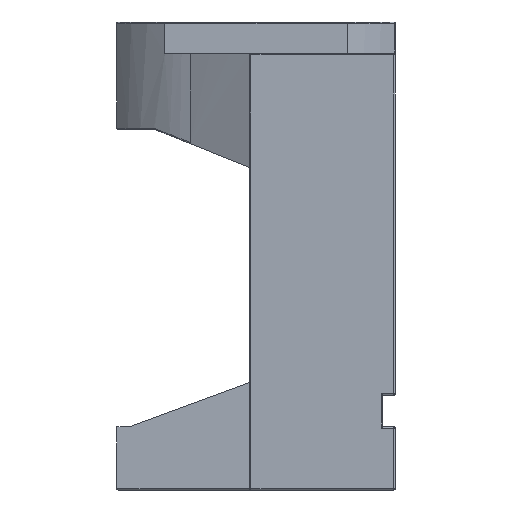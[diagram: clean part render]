
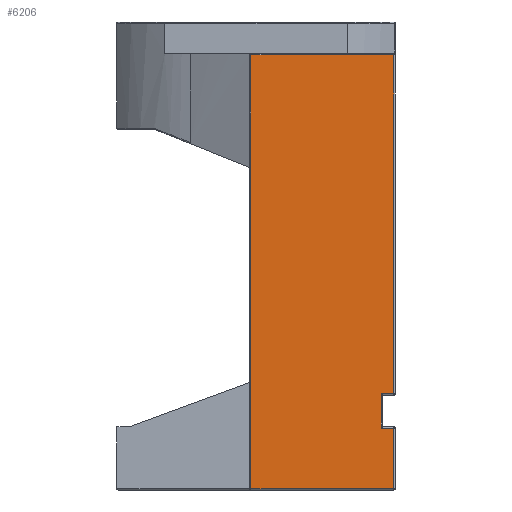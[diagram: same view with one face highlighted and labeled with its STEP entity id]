
A CAD part, left-side view. The second image highlights one B-rep face of the part: STEP entity #6206.
In plain terms, the highlighted planar face has unit normal (-1, 0, 0).
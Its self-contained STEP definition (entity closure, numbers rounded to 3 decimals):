
#141 = CARTESIAN_POINT ( 'NONE',  ( -32.5, -21.8, -4.8 ) ) ;
#221 = EDGE_CURVE ( 'NONE', #1336, #5757, #1367, .T. ) ;
#277 = PLANE ( 'NONE',  #516 ) ;
#446 = VECTOR ( 'NONE', #4212, 1000. ) ;
#516 = AXIS2_PLACEMENT_3D ( 'NONE', #2323, #5662, #5633 ) ;
#776 = EDGE_CURVE ( 'NONE', #5757, #3641, #5572, .T. ) ;
#879 = ORIENTED_EDGE ( 'NONE', *, *, #3501, .T. ) ;
#1160 = DIRECTION ( 'NONE',  ( 0., -1., 0. ) ) ;
#1255 = ORIENTED_EDGE ( 'NONE', *, *, #776, .T. ) ;
#1328 = ORIENTED_EDGE ( 'NONE', *, *, #5368, .T. ) ;
#1336 = VERTEX_POINT ( 'NONE', #5851 ) ;
#1361 = VERTEX_POINT ( 'NONE', #5758 ) ;
#1367 = LINE ( 'NONE', #3613, #2506 ) ;
#1398 = CARTESIAN_POINT ( 'NONE',  ( -32.5, -22., 63.8 ) ) ;
#1416 = DIRECTION ( 'NONE',  ( 0., 1., 0. ) ) ;
#1469 = CARTESIAN_POINT ( 'NONE',  ( -32.5, 0.8, 63.8 ) ) ;
#1584 = DIRECTION ( 'NONE',  ( 0., 1., 0. ) ) ;
#1601 = CARTESIAN_POINT ( 'NONE',  ( -32.5, -22., -4.8 ) ) ;
#1657 = DIRECTION ( 'NONE',  ( 0., -1., 0. ) ) ;
#1677 = VECTOR ( 'NONE', #5457, 1000. ) ;
#1961 = CARTESIAN_POINT ( 'NONE',  ( -32.5, -21.8, 10.2 ) ) ;
#2216 = ORIENTED_EDGE ( 'NONE', *, *, #5739, .T. ) ;
#2309 = ORIENTED_EDGE ( 'NONE', *, *, #4740, .T. ) ;
#2323 = CARTESIAN_POINT ( 'NONE',  ( -32.5, -22., 64. ) ) ;
#2389 = LINE ( 'NONE', #3799, #2553 ) ;
#2439 = LINE ( 'NONE', #4397, #6108 ) ;
#2506 = VECTOR ( 'NONE', #1416, 1000. ) ;
#2553 = VECTOR ( 'NONE', #3843, 1000. ) ;
#2615 = CARTESIAN_POINT ( 'NONE',  ( -32.5, -19.8, 10.2 ) ) ;
#2690 = EDGE_CURVE ( 'NONE', #3641, #5084, #3770, .T. ) ;
#2756 = EDGE_LOOP ( 'NONE', ( #4463, #2216, #6051, #1255, #3172, #879, #2309, #1328 ) ) ;
#3172 = ORIENTED_EDGE ( 'NONE', *, *, #2690, .T. ) ;
#3501 = EDGE_CURVE ( 'NONE', #5084, #5762, #2389, .T. ) ;
#3613 = CARTESIAN_POINT ( 'NONE',  ( -32.5, -22., 4.8 ) ) ;
#3641 = VERTEX_POINT ( 'NONE', #2615 ) ;
#3770 = LINE ( 'NONE', #4042, #6000 ) ;
#3799 = CARTESIAN_POINT ( 'NONE',  ( -32.5, -21.8, 64. ) ) ;
#3826 = EDGE_CURVE ( 'NONE', #1361, #4939, #4542, .T. ) ;
#3843 = DIRECTION ( 'NONE',  ( 0., 0., 1. ) ) ;
#4042 = CARTESIAN_POINT ( 'NONE',  ( -32.5, -22., 10.2 ) ) ;
#4212 = DIRECTION ( 'NONE',  ( 0., 0., 1. ) ) ;
#4241 = LINE ( 'NONE', #5448, #1677 ) ;
#4306 = DIRECTION ( 'NONE',  ( 0., 0., 1. ) ) ;
#4341 = CARTESIAN_POINT ( 'NONE',  ( -32.5, -19.8, 10. ) ) ;
#4397 = CARTESIAN_POINT ( 'NONE',  ( -32.5, -21.8, 5. ) ) ;
#4463 = ORIENTED_EDGE ( 'NONE', *, *, #3826, .T. ) ;
#4484 = CARTESIAN_POINT ( 'NONE',  ( -32.5, -19.8, 4.8 ) ) ;
#4542 = LINE ( 'NONE', #1601, #5685 ) ;
#4565 = CARTESIAN_POINT ( 'NONE',  ( -32.5, -21.8, 63.8 ) ) ;
#4702 = VERTEX_POINT ( 'NONE', #1469 ) ;
#4740 = EDGE_CURVE ( 'NONE', #5762, #4702, #4995, .T. ) ;
#4939 = VERTEX_POINT ( 'NONE', #141 ) ;
#4995 = LINE ( 'NONE', #1398, #6257 ) ;
#5084 = VERTEX_POINT ( 'NONE', #1961 ) ;
#5359 = FACE_OUTER_BOUND ( 'NONE', #2756, .T. ) ;
#5368 = EDGE_CURVE ( 'NONE', #4702, #1361, #4241, .T. ) ;
#5448 = CARTESIAN_POINT ( 'NONE',  ( -32.5, 0.8, -5. ) ) ;
#5457 = DIRECTION ( 'NONE',  ( 0., 0., -1. ) ) ;
#5572 = LINE ( 'NONE', #4341, #446 ) ;
#5633 = DIRECTION ( 'NONE',  ( 0., 1., 0. ) ) ;
#5662 = DIRECTION ( 'NONE',  ( -1., 0., 0. ) ) ;
#5685 = VECTOR ( 'NONE', #1657, 1000. ) ;
#5739 = EDGE_CURVE ( 'NONE', #4939, #1336, #2439, .T. ) ;
#5757 = VERTEX_POINT ( 'NONE', #4484 ) ;
#5758 = CARTESIAN_POINT ( 'NONE',  ( -32.5, 0.8, -4.8 ) ) ;
#5762 = VERTEX_POINT ( 'NONE', #4565 ) ;
#5851 = CARTESIAN_POINT ( 'NONE',  ( -32.5, -21.8, 4.8 ) ) ;
#6000 = VECTOR ( 'NONE', #1160, 1000. ) ;
#6051 = ORIENTED_EDGE ( 'NONE', *, *, #221, .T. ) ;
#6108 = VECTOR ( 'NONE', #4306, 1000. ) ;
#6206 = ADVANCED_FACE ( 'NONE', ( #5359 ), #277, .T. ) ;
#6257 = VECTOR ( 'NONE', #1584, 1000. ) ;
